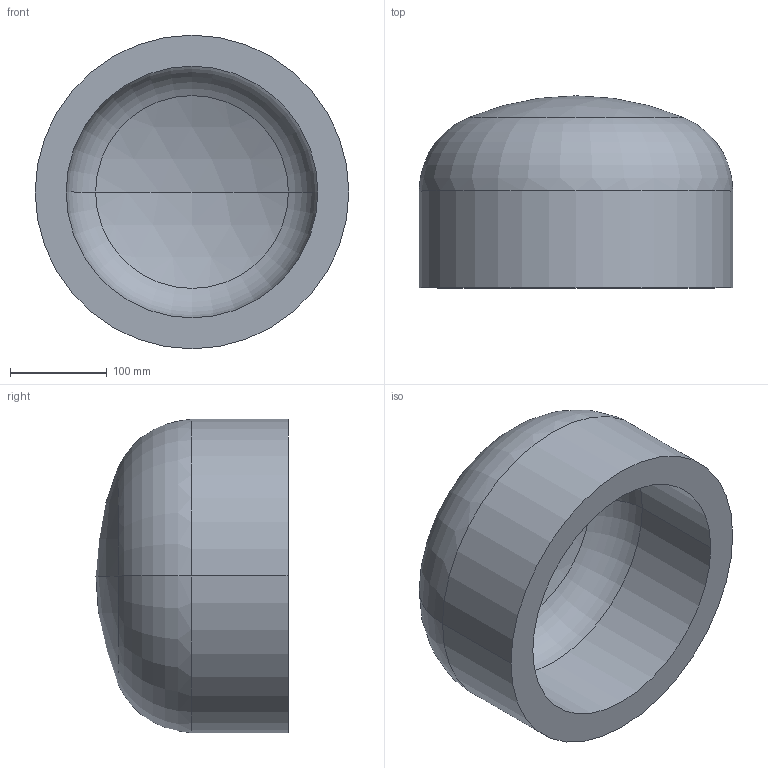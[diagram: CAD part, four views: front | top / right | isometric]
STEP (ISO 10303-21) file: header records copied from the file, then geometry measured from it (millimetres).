
FILE_DESCRIPTION (( 'STEP AP203' ), '1' );
FILE_NAME ('DIN 28013 Korbbogenform_-_Boden DIN 28013 - 323,9 x 100 - I - s=32.step', '2016-07-01T07:45:15', ( '' ), ( '' ), 'SwSTEP 2.0', 'SolidWorks 2013', '' );
FILE_SCHEMA (( 'CONFIG_CONTROL_DESIGN' ));
Length unit declared in the file: millimetre
Products named in the file (1): DIN 28013 Korbbogenform_-_Boden DIN 28013 - 323,9 x 100 - I - s=32
Bounding box: 323.9 x 198.32 x 323.9 mm (x, y, z)
Volume: 6169244.5 mm3; surface area: 417067.4 mm2
Topology: 1 solids, 1 shells, 13 faces, 24 edges, 14 vertices
Faces by surface type: torus 4, cylinder 4, sphere 4, plane 1
Entity records: 407 total; most frequent: DIRECTION 72, CARTESIAN_POINT 52, ORIENTED_EDGE 48, AXIS2_PLACEMENT_3D 34, EDGE_CURVE 24, CIRCLE 20, EDGE_LOOP 14, VERTEX_POINT 14
